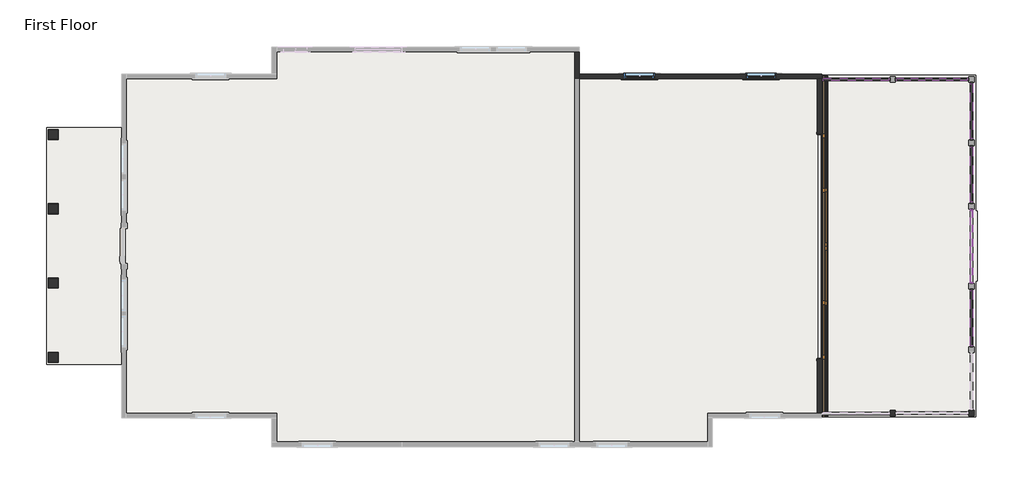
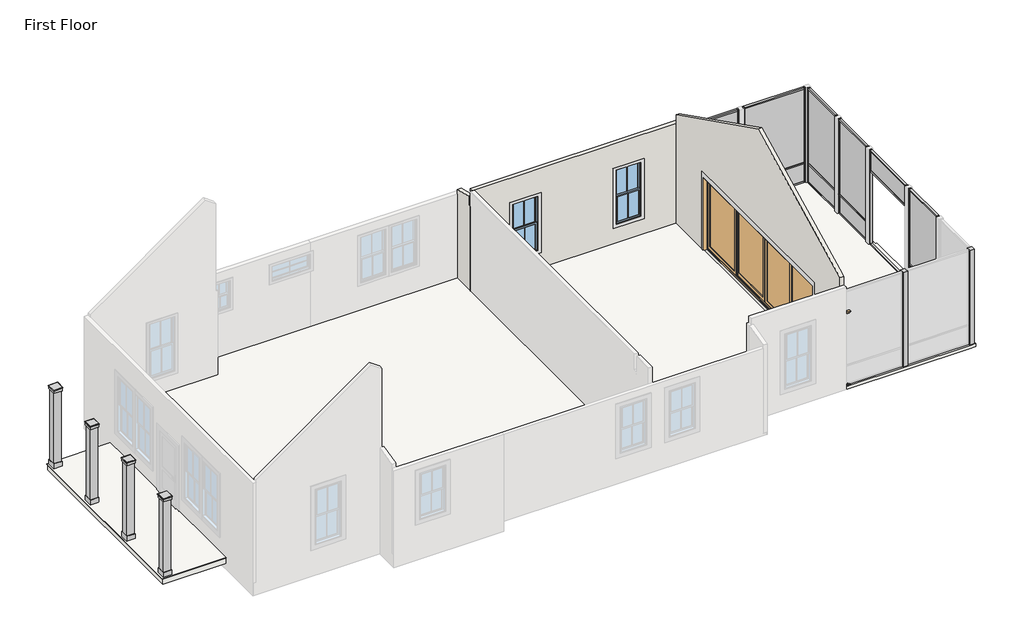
# One storey, part 2 of 3: 42 members, 11 plates, 6 columns, 4 slabs, 3 walls, 2 windows, 1 door.
"""IFC4 building model written with IfcOpenShell, lengths in millimetres."""

from ifc_helpers import new_model, si_unit, frame, origin, origin_with_axes, place, context, project, spatial, polyline, outline, extrude, faceted_brep, transform, mapped, element, save
from components import dimension_lumber_column_bh_6x6_5fb5b677, door_5080_ef8a3742, rectangular_mullion_screen_frame_f38c08a8, rectangular_mullion_screen_frame_8d831df1, rectangular_mullion_screen_frame_511fec39, rectangular_mullion_screen_frame_2d25939d, rectangular_mullion_screen_frame_3ff9ef47, rectangular_mullion_screen_frame_f5a31ed0, rectangular_mullion_screen_frame_30235923, rectangular_mullion_screen_frame_f99cffb0, rectangular_mullion_screen_frame_c8940eb0, rectangular_mullion_screen_frame_2fc61970, rectangular_mullion_screen_frame_7cee8ea0, rectangular_mullion_screen_frame_e9f309df, system_panel_screen_f85f2af3, system_panel_screen_9b5d54dd, system_panel_screen_150f36fd, system_panel_screen_4a7d9bef, system_panel_screen_32642744, system_panel_screen_d6b4d12b, system_panel_screen_7c602fd6, window_single_hung_2860_a2395dbf

model = new_model("IFC4")

# Units and contexts
model_context = context("Model", 3, world=origin())
ifc_project = project(units=[si_unit("LENGTHUNIT", "METRE", prefix="MILLI")], contexts=[model_context])

# Site, building, storey
site = spatial("IfcSite", under=ifc_project)
building = spatial("IfcBuilding", under=site)
storey = spatial("IfcBuildingStorey", under=building, Name="First Floor", Elevation=0.0)

# Columns
placement = place(None, origin())
element("IfcColumn", 1, ObjectType="Arch Column BHD : 9x9", at=placement, inside=storey, context=model_context, shape_type="SolidModel", body=[
    faceted_brep([(3220.6170833, 13802.8063284, 2590.8), (3220.6170833, 13536.1063284, 2590.8), (3487.3170833, 13536.1063284, 2590.8), (3487.3170833, 13802.8063284, 2590.8), (3220.6170833, 13802.8063284, 2482.85), (3487.3170833, 13802.8063284, 2482.85), (3487.3170833, 13536.1063284, 2482.85), (3220.6170833, 13536.1063284, 2482.85), (3239.6670833, 13783.7563284, 2482.85), (3239.6670833, 13555.1563284, 2482.85), (3468.2670833, 13555.1563284, 2482.85), (3468.2670833, 13783.7563284, 2482.85), (3239.6670833, 13783.7563284, 158.75), (3239.6670833, 13555.1563284, 158.75), (3468.2670833, 13555.1563284, 158.75), (3468.2670833, 13783.7563284, 158.75), (3220.6170833, 13802.8063284, 158.75), (3220.6170833, 13536.1063284, 158.75), (3487.3170833, 13536.1063284, 158.75), (3487.3170833, 13802.8063284, 158.75), (3220.6170833, 13802.8063284, 0.0), (3487.3170833, 13802.8063284, 0.0), (3487.3170833, 13536.1063284, 0.0), (3220.6170833, 13536.1063284, 0.0)], [[[0, 1, 2, 3]], [[4, 5, 6, 7], [8, 9, 10, 11]], [[1, 0, 4, 7]], [[2, 1, 7, 6]], [[3, 2, 6, 5]], [[0, 3, 5, 4]], [[8, 12, 13, 9]], [[9, 13, 14, 10]], [[10, 14, 15, 11]], [[12, 8, 11, 15]], [[16, 17, 18, 19], [13, 12, 15, 14]], [[20, 21, 22, 23]], [[17, 16, 20, 23]], [[18, 17, 23, 22]], [[19, 18, 22, 21]], [[16, 19, 21, 20]]]),
    extrude(outline(polyline([(3207.9170833, 13523.4063284), (3207.9170833, 13815.5063284), (3500.0170833, 13815.5063284), (3500.0170833, 13523.4063284), (3207.9170833, 13523.4063284)])), frame((0.0, 0.0, 2571.75), z_axis=(0.0, 0.0, 1.0), x_axis=(1.0, 0.0, 0.0)), (0.0, 0.0, 1.0), 19.05),
])
element("IfcColumn", 2, ObjectType="Arch Column BHD : 9x9", at=placement, inside=storey, context=model_context, shape_type="SolidModel", body=[
    faceted_brep([(3220.6170833, 11838.4041951, 2590.8), (3220.6170833, 11571.7041951, 2590.8), (3487.3170833, 11571.7041951, 2590.8), (3487.3170833, 11838.4041951, 2590.8), (3220.6170833, 11838.4041951, 2482.85), (3487.3170833, 11838.4041951, 2482.85), (3487.3170833, 11571.7041951, 2482.85), (3220.6170833, 11571.7041951, 2482.85), (3239.6670833, 11819.3541951, 2482.85), (3239.6670833, 11590.7541951, 2482.85), (3468.2670833, 11590.7541951, 2482.85), (3468.2670833, 11819.3541951, 2482.85), (3239.6670833, 11819.3541951, 158.75), (3239.6670833, 11590.7541951, 158.75), (3468.2670833, 11590.7541951, 158.75), (3468.2670833, 11819.3541951, 158.75), (3220.6170833, 11838.4041951, 158.75), (3220.6170833, 11571.7041951, 158.75), (3487.3170833, 11571.7041951, 158.75), (3487.3170833, 11838.4041951, 158.75), (3220.6170833, 11838.4041951, 0.0), (3487.3170833, 11838.4041951, 0.0), (3487.3170833, 11571.7041951, 0.0), (3220.6170833, 11571.7041951, 0.0)], [[[0, 1, 2, 3]], [[4, 5, 6, 7], [8, 9, 10, 11]], [[1, 0, 4, 7]], [[2, 1, 7, 6]], [[3, 2, 6, 5]], [[0, 3, 5, 4]], [[8, 12, 13, 9]], [[9, 13, 14, 10]], [[10, 14, 15, 11]], [[12, 8, 11, 15]], [[16, 17, 18, 19], [13, 12, 15, 14]], [[20, 21, 22, 23]], [[17, 16, 20, 23]], [[18, 17, 23, 22]], [[19, 18, 22, 21]], [[16, 19, 21, 20]]]),
    extrude(outline(polyline([(3207.9170833, 11559.0041951), (3207.9170833, 11851.1041951), (3500.0170833, 11851.1041951), (3500.0170833, 11559.0041951), (3207.9170833, 11559.0041951)])), frame((0.0, 0.0, 2571.75), z_axis=(0.0, 0.0, 1.0), x_axis=(1.0, 0.0, 0.0)), (0.0, 0.0, 1.0), 19.05),
])
element("IfcColumn", 3, ObjectType="Arch Column BHD : 9x9", at=placement, inside=storey, context=model_context, shape_type="SolidModel", body=[
    faceted_brep([(3220.6170833, 9874.0020617, 2590.8), (3220.6170833, 9607.3020617, 2590.8), (3487.3170833, 9607.3020617, 2590.8), (3487.3170833, 9874.0020617, 2590.8), (3220.6170833, 9874.0020617, 2482.85), (3487.3170833, 9874.0020617, 2482.85), (3487.3170833, 9607.3020617, 2482.85), (3220.6170833, 9607.3020617, 2482.85), (3239.6670833, 9854.9520617, 2482.85), (3239.6670833, 9626.3520617, 2482.85), (3468.2670833, 9626.3520617, 2482.85), (3468.2670833, 9854.9520617, 2482.85), (3239.6670833, 9854.9520617, 158.75), (3239.6670833, 9626.3520617, 158.75), (3468.2670833, 9626.3520617, 158.75), (3468.2670833, 9854.9520617, 158.75), (3220.6170833, 9874.0020617, 158.75), (3220.6170833, 9607.3020617, 158.75), (3487.3170833, 9607.3020617, 158.75), (3487.3170833, 9874.0020617, 158.75), (3220.6170833, 9874.0020617, 0.0), (3487.3170833, 9874.0020617, 0.0), (3487.3170833, 9607.3020617, 0.0), (3220.6170833, 9607.3020617, 0.0)], [[[0, 1, 2, 3]], [[4, 5, 6, 7], [8, 9, 10, 11]], [[1, 0, 4, 7]], [[2, 1, 7, 6]], [[3, 2, 6, 5]], [[0, 3, 5, 4]], [[8, 12, 13, 9]], [[9, 13, 14, 10]], [[10, 14, 15, 11]], [[12, 8, 11, 15]], [[16, 17, 18, 19], [13, 12, 15, 14]], [[20, 21, 22, 23]], [[17, 16, 20, 23]], [[18, 17, 23, 22]], [[19, 18, 22, 21]], [[16, 19, 21, 20]]]),
    extrude(outline(polyline([(3207.9170833, 9594.6020617), (3207.9170833, 9886.7020617), (3500.0170833, 9886.7020617), (3500.0170833, 9594.6020617), (3207.9170833, 9594.6020617)])), frame((0.0, 0.0, 2571.75), z_axis=(0.0, 0.0, 1.0), x_axis=(1.0, 0.0, 0.0)), (0.0, 0.0, 1.0), 19.05),
])
element("IfcColumn", 4, ObjectType="Arch Column BHD : 9x9", at=placement, inside=storey, context=model_context, shape_type="SolidModel", body=[
    faceted_brep([(3220.6170833, 7909.5999284, 2590.8), (3220.6170833, 7642.8999284, 2590.8), (3487.3170833, 7642.8999284, 2590.8), (3487.3170833, 7909.5999284, 2590.8), (3220.6170833, 7909.5999284, 2482.85), (3487.3170833, 7909.5999284, 2482.85), (3487.3170833, 7642.8999284, 2482.85), (3220.6170833, 7642.8999284, 2482.85), (3239.6670833, 7890.5499284, 2482.85), (3239.6670833, 7661.9499284, 2482.85), (3468.2670833, 7661.9499284, 2482.85), (3468.2670833, 7890.5499284, 2482.85), (3239.6670833, 7890.5499284, 158.75), (3239.6670833, 7661.9499284, 158.75), (3468.2670833, 7661.9499284, 158.75), (3468.2670833, 7890.5499284, 158.75), (3220.6170833, 7909.5999284, 158.75), (3220.6170833, 7642.8999284, 158.75), (3487.3170833, 7642.8999284, 158.75), (3487.3170833, 7909.5999284, 158.75), (3220.6170833, 7909.5999284, 0.0), (3487.3170833, 7909.5999284, 0.0), (3487.3170833, 7642.8999284, 0.0), (3220.6170833, 7642.8999284, 0.0)], [[[0, 1, 2, 3]], [[4, 5, 6, 7], [8, 9, 10, 11]], [[1, 0, 4, 7]], [[2, 1, 7, 6]], [[3, 2, 6, 5]], [[0, 3, 5, 4]], [[8, 12, 13, 9]], [[9, 13, 14, 10]], [[10, 14, 15, 11]], [[12, 8, 11, 15]], [[16, 17, 18, 19], [13, 12, 15, 14]], [[20, 21, 22, 23]], [[17, 16, 20, 23]], [[18, 17, 23, 22]], [[19, 18, 22, 21]], [[16, 19, 21, 20]]]),
    extrude(outline(polyline([(3207.9170833, 7630.1999284), (3207.9170833, 7922.2999284), (3500.0170833, 7922.2999284), (3500.0170833, 7630.1999284), (3207.9170833, 7630.1999284)])), frame((0.0, 0.0, 2571.75), z_axis=(0.0, 0.0, 1.0), x_axis=(1.0, 0.0, 0.0)), (0.0, 0.0, 1.0), 19.05),
])
dimension_lumber_column_bh_6x6_shape = dimension_lumber_column_bh_6x6_5fb5b677(model_context)
element("IfcColumn", 5, ObjectType="Dimension Lumber-Column BH : 6x6", at=placement, inside=storey, context=model_context, shape_type="MappedRepresentation", body=[
    mapped(dimension_lumber_column_bh_6x6_shape, transform((27590.4311833, 6303.0499284, 0.0), x_axis=(1.0, 0.0, 0.0), y_axis=(0.0, 1.0, 0.0), z_axis=(0.0, 0.0, 1.0))),
])
element("IfcColumn", 6, ObjectType="Dimension Lumber-Column BH : 6x6", at=placement, inside=storey, context=model_context, shape_type="MappedRepresentation", body=[
    mapped(dimension_lumber_column_bh_6x6_shape, transform((25515.9623833, 6303.0499284, 0.0), x_axis=(1.0, 0.0, 0.0), y_axis=(0.0, 1.0, 0.0), z_axis=(0.0, 0.0, 1.0))),
])

# Door
door_5080_shape = door_5080_ef8a3742(model_context)
element("IfcDoor", 7, ObjectType="SGD 4 Panel 2 Track Opposing Exo : 5080", at=placement, inside=storey, context=model_context, shape_type="MappedRepresentation", body=[
    mapped(door_5080_shape, transform((23581.8920833, 10707.6893284, 0.0), x_axis=(0.0, -1.0, 0.0), y_axis=(1.0, 0.0, 0.0), z_axis=(0.0, 0.0, 1.0))),
])

# Members
rectangular_mullion_screen_frame_shape = rectangular_mullion_screen_frame_f38c08a8(model_context)
element("IfcMember", 8, ObjectType="Rectangular Mullion : Screen Frame", at=placement, inside=storey, context=model_context, shape_type="MappedRepresentation", body=[
    mapped(rectangular_mullion_screen_frame_shape, transform((25623.9123833, 15121.7140284, 3117.85), x_axis=(0.0, 0.0, 1.0), y_axis=(0.0, 1.0, 0.0), z_axis=(-1.0, 0.0, 0.0))),
])
element("IfcMember", 9, ObjectType="Rectangular Mullion : Screen Frame", at=placement, inside=storey, context=model_context, shape_type="MappedRepresentation", body=[
    mapped(rectangular_mullion_screen_frame_shape, transform((27482.4811833, 15121.7140284, 0.0), x_axis=(0.0, 0.0, -1.0), y_axis=(0.0, 1.0, 0.0), z_axis=(1.0, 0.0, 0.0))),
])
rectangular_mullion_screen_frame_2_shape = rectangular_mullion_screen_frame_8d831df1(model_context)
element("IfcMember", 10, ObjectType="Rectangular Mullion : Screen Frame", at=placement, inside=storey, context=model_context, shape_type="MappedRepresentation", body=[
    mapped(rectangular_mullion_screen_frame_2_shape, transform((27590.4311833, 9547.8999284, 3117.85), x_axis=(0.0, 0.0, 1.0), y_axis=(1.0, 0.0, 0.0), z_axis=(0.0, 1.0, 0.0))),
])
element("IfcMember", 11, ObjectType="Rectangular Mullion : Screen Frame", at=placement, inside=storey, context=model_context, shape_type="MappedRepresentation", body=[
    mapped(rectangular_mullion_screen_frame_2_shape, transform((27590.4311833, 13337.3640284, 3117.85), x_axis=(0.0, 0.0, 1.0), y_axis=(1.0, 0.0, 0.0), z_axis=(0.0, 1.0, 0.0))),
])
element("IfcMember", 12, ObjectType="Rectangular Mullion : Screen Frame", at=placement, inside=storey, context=model_context, shape_type="MappedRepresentation", body=[
    mapped(rectangular_mullion_screen_frame_2_shape, transform((27590.4311833, 15013.7640284, 3117.85), x_axis=(0.0, 0.0, 1.0), y_axis=(1.0, 0.0, 0.0), z_axis=(0.0, 1.0, 0.0))),
])
element("IfcMember", 13, ObjectType="Rectangular Mullion : Screen Frame", at=placement, inside=storey, context=model_context, shape_type="MappedRepresentation", body=[
    mapped(rectangular_mullion_screen_frame_2_shape, transform((27590.4311833, 8087.3999284, 0.0), x_axis=(0.0, 0.0, -1.0), y_axis=(1.0, 0.0, 0.0), z_axis=(0.0, -1.0, 0.0))),
])
element("IfcMember", 14, ObjectType="Rectangular Mullion : Screen Frame", at=placement, inside=storey, context=model_context, shape_type="MappedRepresentation", body=[
    mapped(rectangular_mullion_screen_frame_2_shape, transform((27590.4311833, 11876.8640284, 0.0), x_axis=(0.0, 0.0, -1.0), y_axis=(1.0, 0.0, 0.0), z_axis=(0.0, -1.0, 0.0))),
])
element("IfcMember", 15, ObjectType="Rectangular Mullion : Screen Frame", at=placement, inside=storey, context=model_context, shape_type="MappedRepresentation", body=[
    mapped(rectangular_mullion_screen_frame_2_shape, transform((27590.4311833, 13553.2640284, 0.0), x_axis=(0.0, 0.0, -1.0), y_axis=(1.0, 0.0, 0.0), z_axis=(0.0, -1.0, 0.0))),
])
rectangular_mullion_screen_frame_3_shape = rectangular_mullion_screen_frame_511fec39(model_context)
element("IfcMember", 16, ObjectType="Rectangular Mullion : Screen Frame", at=placement, inside=storey, context=model_context, shape_type="MappedRepresentation", body=[
    mapped(rectangular_mullion_screen_frame_3_shape, transform((23680.3170833, 15121.7140284, 3117.85), x_axis=(0.0, 0.0, 1.0), y_axis=(0.0, 1.0, 0.0), z_axis=(-1.0, 0.0, 0.0))),
])
element("IfcMember", 17, ObjectType="Rectangular Mullion : Screen Frame", at=placement, inside=storey, context=model_context, shape_type="MappedRepresentation", body=[
    mapped(rectangular_mullion_screen_frame_3_shape, transform((25408.0123833, 15121.7140284, 0.0), x_axis=(0.0, 0.0, -1.0), y_axis=(0.0, 1.0, 0.0), z_axis=(1.0, 0.0, 0.0))),
])
rectangular_mullion_screen_frame_4_shape = rectangular_mullion_screen_frame_2d25939d(model_context)
element("IfcMember", 18, ObjectType="Rectangular Mullion : Screen Frame", at=placement, inside=storey, context=model_context, shape_type="MappedRepresentation", body=[
    mapped(rectangular_mullion_screen_frame_4_shape, transform((27590.4311833, 11660.9640284, 3117.85), x_axis=(0.0, 0.0, 1.0), y_axis=(1.0, 0.0, 0.0), z_axis=(0.0, 1.0, 0.0))),
])
element("IfcMember", 19, ObjectType="Rectangular Mullion : Screen Frame", at=placement, inside=storey, context=model_context, shape_type="MappedRepresentation", body=[
    mapped(rectangular_mullion_screen_frame_4_shape, transform((27590.4311833, 9764.1597617, 0.0), x_axis=(0.0, 0.0, -1.0), y_axis=(1.0, 0.0, 0.0), z_axis=(0.0, -1.0, 0.0))),
])
rectangular_mullion_screen_frame_5_shape = rectangular_mullion_screen_frame_3ff9ef47(model_context)
element("IfcMember", 20, ObjectType="Rectangular Mullion : Screen Frame", at=placement, inside=storey, context=model_context, shape_type="MappedRepresentation", body=[
    mapped(rectangular_mullion_screen_frame_5_shape, transform((27590.4311833, 11660.9640284, 2434.7932), x_axis=(0.0, 0.0, 1.0), y_axis=(1.0, 0.0, 0.0), z_axis=(0.0, 1.0, 0.0))),
])
rectangular_mullion_screen_frame_6_shape = rectangular_mullion_screen_frame_f5a31ed0(model_context)
element("IfcMember", 21, ObjectType="Rectangular Mullion : Screen Frame", at=placement, inside=storey, context=model_context, shape_type="MappedRepresentation", body=[
    mapped(rectangular_mullion_screen_frame_6_shape, transform((27590.4311833, 11699.0640284, 0.0), x_axis=(0.0, 1.0, 0.0), y_axis=(1.0, 0.0, 0.0), z_axis=(0.0, 0.0, -1.0))),
])
rectangular_mullion_screen_frame_7_shape = rectangular_mullion_screen_frame_30235923(model_context)
element("IfcMember", 22, ObjectType="Rectangular Mullion : Screen Frame", at=placement, inside=storey, context=model_context, shape_type="MappedRepresentation", body=[
    mapped(rectangular_mullion_screen_frame_7_shape, transform((27590.4311833, 9726.0597617, 3117.85), x_axis=(0.0, -1.0, 0.0), y_axis=(1.0, 0.0, 0.0), z_axis=(0.0, 0.0, 1.0))),
])
element("IfcMember", 23, ObjectType="Rectangular Mullion : Screen Frame", at=placement, inside=storey, context=model_context, shape_type="MappedRepresentation", body=[
    mapped(rectangular_mullion_screen_frame_7_shape, transform((27590.4311833, 11699.0640284, 2434.7932), x_axis=(0.0, 1.0, 0.0), y_axis=(1.0, 0.0, 0.0), z_axis=(0.0, 0.0, -1.0))),
])
element("IfcMember", 24, ObjectType="Rectangular Mullion : Screen Frame", at=placement, inside=storey, context=model_context, shape_type="MappedRepresentation", body=[
    mapped(rectangular_mullion_screen_frame_6_shape, transform((27590.4311833, 9726.0597617, 2434.7932), x_axis=(0.0, -1.0, 0.0), y_axis=(1.0, 0.0, 0.0), z_axis=(0.0, 0.0, 1.0))),
])
rectangular_mullion_screen_frame_8_shape = rectangular_mullion_screen_frame_f99cffb0(model_context)
element("IfcMember", 25, ObjectType="Rectangular Mullion : Screen Frame", at=placement, inside=storey, context=model_context, shape_type="MappedRepresentation", body=[
    mapped(rectangular_mullion_screen_frame_8_shape, transform((27590.4311833, 9547.8999284, 632.46), x_axis=(0.0, 0.0, 1.0), y_axis=(1.0, 0.0, 0.0), z_axis=(0.0, 1.0, 0.0))),
])
element("IfcMember", 26, ObjectType="Rectangular Mullion : Screen Frame", at=placement, inside=storey, context=model_context, shape_type="MappedRepresentation", body=[
    mapped(rectangular_mullion_screen_frame_8_shape, transform((27590.4311833, 13337.3640284, 632.46), x_axis=(0.0, 0.0, 1.0), y_axis=(1.0, 0.0, 0.0), z_axis=(0.0, 1.0, 0.0))),
])
element("IfcMember", 27, ObjectType="Rectangular Mullion : Screen Frame", at=placement, inside=storey, context=model_context, shape_type="MappedRepresentation", body=[
    mapped(rectangular_mullion_screen_frame_8_shape, transform((27590.4311833, 15013.7640284, 632.46), x_axis=(0.0, 0.0, 1.0), y_axis=(1.0, 0.0, 0.0), z_axis=(0.0, 1.0, 0.0))),
])
rectangular_mullion_screen_frame_9_shape = rectangular_mullion_screen_frame_c8940eb0(model_context)
element("IfcMember", 28, ObjectType="Rectangular Mullion : Screen Frame", at=placement, inside=storey, context=model_context, shape_type="MappedRepresentation", body=[
    mapped(rectangular_mullion_screen_frame_9_shape, transform((27590.4311833, 9585.9999284, 0.0), x_axis=(0.0, 1.0, 0.0), y_axis=(1.0, 0.0, 0.0), z_axis=(0.0, 0.0, -1.0))),
])
element("IfcMember", 29, ObjectType="Rectangular Mullion : Screen Frame", at=placement, inside=storey, context=model_context, shape_type="MappedRepresentation", body=[
    mapped(rectangular_mullion_screen_frame_9_shape, transform((27590.4311833, 13375.4640284, 0.0), x_axis=(0.0, 1.0, 0.0), y_axis=(1.0, 0.0, 0.0), z_axis=(0.0, 0.0, -1.0))),
])
element("IfcMember", 30, ObjectType="Rectangular Mullion : Screen Frame", at=placement, inside=storey, context=model_context, shape_type="MappedRepresentation", body=[
    mapped(rectangular_mullion_screen_frame_9_shape, transform((27590.4311833, 15051.8640284, 0.0), x_axis=(0.0, 1.0, 0.0), y_axis=(1.0, 0.0, 0.0), z_axis=(0.0, 0.0, -1.0))),
])
element("IfcMember", 31, ObjectType="Rectangular Mullion : Screen Frame", at=placement, inside=storey, context=model_context, shape_type="MappedRepresentation", body=[
    mapped(rectangular_mullion_screen_frame_9_shape, transform((25585.8123833, 15121.7140284, 0.0), x_axis=(-1.0, 0.0, 0.0), y_axis=(0.0, 1.0, 0.0), z_axis=(0.0, 0.0, -1.0))),
])
element("IfcMember", 32, ObjectType="Rectangular Mullion : Screen Frame", at=placement, inside=storey, context=model_context, shape_type="MappedRepresentation", body=[
    mapped(rectangular_mullion_screen_frame_9_shape, transform((23642.2170833, 15121.7140284, 0.0), x_axis=(-1.0, 0.0, 0.0), y_axis=(0.0, 1.0, 0.0), z_axis=(0.0, 0.0, -1.0))),
])
rectangular_mullion_screen_frame_10_shape = rectangular_mullion_screen_frame_2fc61970(model_context)
element("IfcMember", 33, ObjectType="Rectangular Mullion : Screen Frame", at=placement, inside=storey, context=model_context, shape_type="MappedRepresentation", body=[
    mapped(rectangular_mullion_screen_frame_10_shape, transform((27590.4311833, 8049.2999284, 3117.85), x_axis=(0.0, -1.0, 0.0), y_axis=(1.0, 0.0, 0.0), z_axis=(0.0, 0.0, 1.0))),
])
element("IfcMember", 34, ObjectType="Rectangular Mullion : Screen Frame", at=placement, inside=storey, context=model_context, shape_type="MappedRepresentation", body=[
    mapped(rectangular_mullion_screen_frame_10_shape, transform((27590.4311833, 11838.7640284, 3117.85), x_axis=(0.0, -1.0, 0.0), y_axis=(1.0, 0.0, 0.0), z_axis=(0.0, 0.0, 1.0))),
])
element("IfcMember", 35, ObjectType="Rectangular Mullion : Screen Frame", at=placement, inside=storey, context=model_context, shape_type="MappedRepresentation", body=[
    mapped(rectangular_mullion_screen_frame_10_shape, transform((27590.4311833, 13515.1640284, 3117.85), x_axis=(0.0, -1.0, 0.0), y_axis=(1.0, 0.0, 0.0), z_axis=(0.0, 0.0, 1.0))),
])
element("IfcMember", 36, ObjectType="Rectangular Mullion : Screen Frame", at=placement, inside=storey, context=model_context, shape_type="MappedRepresentation", body=[
    mapped(rectangular_mullion_screen_frame_10_shape, transform((27520.5811833, 15121.7140284, 3117.85), x_axis=(1.0, 0.0, 0.0), y_axis=(0.0, 1.0, 0.0), z_axis=(0.0, 0.0, 1.0))),
])
element("IfcMember", 37, ObjectType="Rectangular Mullion : Screen Frame", at=placement, inside=storey, context=model_context, shape_type="MappedRepresentation", body=[
    mapped(rectangular_mullion_screen_frame_10_shape, transform((25446.1123833, 15121.7140284, 3117.85), x_axis=(1.0, 0.0, 0.0), y_axis=(0.0, 1.0, 0.0), z_axis=(0.0, 0.0, 1.0))),
])
element("IfcMember", 38, ObjectType="Rectangular Mullion : Screen Frame", at=placement, inside=storey, context=model_context, shape_type="MappedRepresentation", body=[
    mapped(rectangular_mullion_screen_frame_10_shape, transform((27590.4311833, 9585.9999284, 632.46), x_axis=(0.0, 1.0, 0.0), y_axis=(1.0, 0.0, 0.0), z_axis=(0.0, 0.0, -1.0))),
])
element("IfcMember", 39, ObjectType="Rectangular Mullion : Screen Frame", at=placement, inside=storey, context=model_context, shape_type="MappedRepresentation", body=[
    mapped(rectangular_mullion_screen_frame_10_shape, transform((27590.4311833, 13375.4640284, 632.46), x_axis=(0.0, 1.0, 0.0), y_axis=(1.0, 0.0, 0.0), z_axis=(0.0, 0.0, -1.0))),
])
element("IfcMember", 40, ObjectType="Rectangular Mullion : Screen Frame", at=placement, inside=storey, context=model_context, shape_type="MappedRepresentation", body=[
    mapped(rectangular_mullion_screen_frame_10_shape, transform((27590.4311833, 15051.8640284, 632.46), x_axis=(0.0, 1.0, 0.0), y_axis=(1.0, 0.0, 0.0), z_axis=(0.0, 0.0, -1.0))),
])
element("IfcMember", 41, ObjectType="Rectangular Mullion : Screen Frame", at=placement, inside=storey, context=model_context, shape_type="MappedRepresentation", body=[
    mapped(rectangular_mullion_screen_frame_10_shape, transform((25585.8123833, 15121.7140284, 632.46), x_axis=(-1.0, 0.0, 0.0), y_axis=(0.0, 1.0, 0.0), z_axis=(0.0, 0.0, -1.0))),
])
element("IfcMember", 42, ObjectType="Rectangular Mullion : Screen Frame", at=placement, inside=storey, context=model_context, shape_type="MappedRepresentation", body=[
    mapped(rectangular_mullion_screen_frame_10_shape, transform((23642.2170833, 15121.7140284, 632.46), x_axis=(-1.0, 0.0, 0.0), y_axis=(0.0, 1.0, 0.0), z_axis=(0.0, 0.0, -1.0))),
])
element("IfcMember", 43, ObjectType="Rectangular Mullion : Screen Frame", at=placement, inside=storey, context=model_context, shape_type="MappedRepresentation", body=[
    mapped(rectangular_mullion_screen_frame_9_shape, transform((27590.4311833, 8049.2999284, 632.46), x_axis=(0.0, -1.0, 0.0), y_axis=(1.0, 0.0, 0.0), z_axis=(0.0, 0.0, 1.0))),
])
element("IfcMember", 44, ObjectType="Rectangular Mullion : Screen Frame", at=placement, inside=storey, context=model_context, shape_type="MappedRepresentation", body=[
    mapped(rectangular_mullion_screen_frame_9_shape, transform((27590.4311833, 11838.7640284, 632.46), x_axis=(0.0, -1.0, 0.0), y_axis=(1.0, 0.0, 0.0), z_axis=(0.0, 0.0, 1.0))),
])
element("IfcMember", 45, ObjectType="Rectangular Mullion : Screen Frame", at=placement, inside=storey, context=model_context, shape_type="MappedRepresentation", body=[
    mapped(rectangular_mullion_screen_frame_9_shape, transform((27590.4311833, 13515.1640284, 632.46), x_axis=(0.0, -1.0, 0.0), y_axis=(1.0, 0.0, 0.0), z_axis=(0.0, 0.0, 1.0))),
])
element("IfcMember", 46, ObjectType="Rectangular Mullion : Screen Frame", at=placement, inside=storey, context=model_context, shape_type="MappedRepresentation", body=[
    mapped(rectangular_mullion_screen_frame_9_shape, transform((27520.5811833, 15121.7140284, 632.46), x_axis=(1.0, 0.0, 0.0), y_axis=(0.0, 1.0, 0.0), z_axis=(0.0, 0.0, 1.0))),
])
element("IfcMember", 47, ObjectType="Rectangular Mullion : Screen Frame", at=placement, inside=storey, context=model_context, shape_type="MappedRepresentation", body=[
    mapped(rectangular_mullion_screen_frame_9_shape, transform((25446.1123833, 15121.7140284, 632.46), x_axis=(1.0, 0.0, 0.0), y_axis=(0.0, 1.0, 0.0), z_axis=(0.0, 0.0, 1.0))),
])
rectangular_mullion_screen_frame_11_shape = rectangular_mullion_screen_frame_7cee8ea0(model_context)
element("IfcMember", 48, ObjectType="Rectangular Mullion : Screen Frame", at=placement, inside=storey, context=model_context, shape_type="MappedRepresentation", body=[
    mapped(rectangular_mullion_screen_frame_11_shape, transform((25623.9123833, 15121.7140284, 632.46), x_axis=(0.0, 0.0, 1.0), y_axis=(0.0, 1.0, 0.0), z_axis=(-1.0, 0.0, 0.0))),
])
rectangular_mullion_screen_frame_12_shape = rectangular_mullion_screen_frame_e9f309df(model_context)
element("IfcMember", 49, ObjectType="Rectangular Mullion : Screen Frame", at=placement, inside=storey, context=model_context, shape_type="MappedRepresentation", body=[
    mapped(rectangular_mullion_screen_frame_12_shape, transform((23680.3170833, 15121.7140284, 632.46), x_axis=(0.0, 0.0, 1.0), y_axis=(0.0, 1.0, 0.0), z_axis=(-1.0, 0.0, 0.0))),
])

# Plates
system_panel_screen_shape = system_panel_screen_f85f2af3(model_context)
element("IfcPlate", 50, ObjectType="System Panel : Screen", at=placement, inside=storey, context=model_context, shape_type="MappedRepresentation", body=[
    mapped(system_panel_screen_shape, transform((27590.4311833, 10712.5618951, 2453.8432), x_axis=(0.0, 1.0, 0.0), y_axis=(-1.0, 0.0, 0.0), z_axis=(0.0, 0.0, 1.0))),
])
system_panel_screen_2_shape = system_panel_screen_9b5d54dd(model_context)
element("IfcPlate", 51, ObjectType="System Panel : Screen", at=placement, inside=storey, context=model_context, shape_type="MappedRepresentation", body=[
    mapped(system_panel_screen_2_shape, transform((27590.4311833, 8817.6499284, 38.1), x_axis=(0.0, 1.0, 0.0), y_axis=(-1.0, 0.0, 0.0), z_axis=(0.0, 0.0, 1.0))),
])
element("IfcPlate", 52, ObjectType="System Panel : Screen", at=placement, inside=storey, context=model_context, shape_type="MappedRepresentation", body=[
    mapped(system_panel_screen_2_shape, transform((27590.4311833, 12607.1140284, 38.1), x_axis=(0.0, 1.0, 0.0), y_axis=(-1.0, 0.0, 0.0), z_axis=(0.0, 0.0, 1.0))),
])
element("IfcPlate", 53, ObjectType="System Panel : Screen", at=placement, inside=storey, context=model_context, shape_type="MappedRepresentation", body=[
    mapped(system_panel_screen_2_shape, transform((27590.4311833, 14283.5140284, 38.1), x_axis=(0.0, 1.0, 0.0), y_axis=(-1.0, 0.0, 0.0), z_axis=(0.0, 0.0, 1.0))),
])
system_panel_screen_3_shape = system_panel_screen_150f36fd(model_context)
element("IfcPlate", 54, ObjectType="System Panel : Screen", at=placement, inside=storey, context=model_context, shape_type="MappedRepresentation", body=[
    mapped(system_panel_screen_3_shape, transform((27590.4311833, 8817.6499284, 651.51), x_axis=(0.0, 1.0, 0.0), y_axis=(-1.0, 0.0, 0.0), z_axis=(0.0, 0.0, 1.0))),
])
element("IfcPlate", 55, ObjectType="System Panel : Screen", at=placement, inside=storey, context=model_context, shape_type="MappedRepresentation", body=[
    mapped(system_panel_screen_3_shape, transform((27590.4311833, 12607.1140284, 651.51), x_axis=(0.0, 1.0, 0.0), y_axis=(-1.0, 0.0, 0.0), z_axis=(0.0, 0.0, 1.0))),
])
element("IfcPlate", 56, ObjectType="System Panel : Screen", at=placement, inside=storey, context=model_context, shape_type="MappedRepresentation", body=[
    mapped(system_panel_screen_3_shape, transform((27590.4311833, 14283.5140284, 651.51), x_axis=(0.0, 1.0, 0.0), y_axis=(-1.0, 0.0, 0.0), z_axis=(0.0, 0.0, 1.0))),
])
system_panel_screen_4_shape = system_panel_screen_4a7d9bef(model_context)
element("IfcPlate", 57, ObjectType="System Panel : Screen", at=placement, inside=storey, context=model_context, shape_type="MappedRepresentation", body=[
    mapped(system_panel_screen_4_shape, transform((24544.1647333, 15121.7140284, 38.1), x_axis=(-1.0, 0.0, 0.0), y_axis=(0.0, -1.0, 0.0), z_axis=(0.0, 0.0, 1.0))),
])
system_panel_screen_5_shape = system_panel_screen_32642744(model_context)
element("IfcPlate", 58, ObjectType="System Panel : Screen", at=placement, inside=storey, context=model_context, shape_type="MappedRepresentation", body=[
    mapped(system_panel_screen_5_shape, transform((24544.1647333, 15121.7140284, 651.51), x_axis=(-1.0, 0.0, 0.0), y_axis=(0.0, -1.0, 0.0), z_axis=(0.0, 0.0, 1.0))),
])
system_panel_screen_6_shape = system_panel_screen_d6b4d12b(model_context)
element("IfcPlate", 59, ObjectType="System Panel : Screen", at=placement, inside=storey, context=model_context, shape_type="MappedRepresentation", body=[
    mapped(system_panel_screen_6_shape, transform((26553.1967833, 15121.7140284, 38.1), x_axis=(-1.0, 0.0, 0.0), y_axis=(0.0, -1.0, 0.0), z_axis=(0.0, 0.0, 1.0))),
])
system_panel_screen_7_shape = system_panel_screen_7c602fd6(model_context)
element("IfcPlate", 60, ObjectType="System Panel : Screen", at=placement, inside=storey, context=model_context, shape_type="MappedRepresentation", body=[
    mapped(system_panel_screen_7_shape, transform((26553.1967833, 15121.7140284, 651.51), x_axis=(-1.0, 0.0, 0.0), y_axis=(0.0, -1.0, 0.0), z_axis=(0.0, 0.0, 1.0))),
])

# Slabs
element("IfcSlab", 61, ObjectType="Composite", at=placement, inside=storey, context=model_context, shape_type="SweptSolid", body=[
    extrude(outline(polyline([(5182.7670833, 13846.8499284), (5182.7670833, 7598.4499284), (3176.1670833, 7598.4499284), (3176.1670833, 13846.8499284), (5182.7670833, 13846.8499284)])), frame((0.0, 0.0, -19.05), z_axis=(0.0, 0.0, 1.0), x_axis=(1.0, 0.0, 0.0)), (0.0, 0.0, 1.0), 19.05),
])
element("IfcSlab", 62, ObjectType="Concrete 4\" Broom", at=placement, inside=storey, context=model_context, shape_type="Brep", body=[
    faceted_brep([(27699.8670833, 15231.1499284, -101.6), (27699.8670833, 15050.1749284, -101.6), (27699.8670833, 11649.7499284, -101.6), (27712.5670833, 11649.7499284, -101.6), (27750.6670833, 11649.7499284, -101.6), (27750.6670833, 9795.5499284, -101.6), (27712.5670833, 9795.5499284, -101.6), (27699.8670833, 9795.5499284, -101.6), (27699.8670833, 6214.1499284, -101.6), (27518.8920833, 6214.1499284, -101.6), (23623.1670833, 6214.1499284, -101.6), (23623.1670833, 6395.1249284, -101.6), (23623.1670833, 15050.1749284, -101.6), (23623.1670833, 15231.1499284, -101.6), (27699.8670833, 15231.1499284, 0.0), (23623.1670833, 15231.1499284, 0.0), (23623.1670833, 15050.1749284, 0.0), (23623.1670833, 6395.1249284, 0.0), (23623.1670833, 6214.1499284, 0.0), (27518.8920833, 6214.1499284, 0.0), (27699.8670833, 6214.1499284, 0.0), (27699.8670833, 9795.5499284, 0.0), (27712.5670833, 9795.5499284, 0.0), (27750.6670833, 9795.5499284, 0.0), (27750.6670833, 11649.7499284, 0.0), (27712.5670833, 11649.7499284, 0.0), (27699.8670833, 11649.7499284, 0.0), (27699.8670833, 15050.1749284, 0.0)], [[[0, 1, 2, 3, 4, 5, 6, 7, 8, 9, 10, 11, 12, 13]], [[14, 15, 16, 17, 18, 19, 20, 21, 22, 23, 24, 25, 26, 27]], [[2, 1, 0, 14, 27, 26]], [[10, 9, 8, 20, 19, 18]], [[13, 12, 11, 10, 18, 17, 16, 15]], [[0, 13, 15, 14]], [[4, 3, 2, 26, 25, 24]], [[5, 4, 24, 23]], [[7, 6, 5, 23, 22, 21]], [[8, 7, 21, 20]]]),
])
element("IfcSlab", 63, ObjectType="Trim", at=placement, inside=storey, context=model_context, shape_type="SweptSolid", body=[
    extrude(outline(polyline([(5182.7670833, 13821.4499284), (5182.7670833, 7623.8499284), (3201.5670833, 7623.8499284), (3201.5670833, 13821.4499284), (5182.7670833, 13821.4499284)])), frame((0.0, 0.0, -203.2), z_axis=(0.0, 0.0, 1.0), x_axis=(1.0, 0.0, 0.0)), (0.0, 0.0, 1.0), 184.15),
])
element("IfcSlab", 64, ObjectType="Wood Finish", at=placement, inside=storey, context=model_context, shape_type="SweptSolid", body=[
    extrude(outline(polyline([(5271.6670833, 15154.9499284), (9234.0670833, 15154.9499284), (9234.0670833, 15866.1499284), (12548.7670833, 15866.1499284), (17133.4670833, 15866.1499284), (17133.4670833, 15154.9499284), (23534.2670833, 15154.9499284), (23534.2670833, 6290.3499284), (20638.6670833, 6290.3499284), (20638.6670833, 5528.3499284), (12548.7670833, 5528.3499284), (9234.0670833, 5528.3499284), (9234.0670833, 6290.3499284), (5271.6670833, 6290.3499284), (5271.6670833, 15154.9499284)])), origin_with_axes(), (0.0, 0.0, 1.0), 19.05),
])

# Walls
element("IfcWall", 65, ObjectType="Exterior 4” Hardie", at=placement, inside=storey, context=model_context, shape_type="Brep", body=[
    faceted_brep([(17120.7670833, 15853.4499284, 0.0), (17120.7670833, 15142.2499284, 0.0), (17120.7670833, 15142.2499284, 2794.0), (17120.7670833, 15243.8499284, 2794.0), (17120.7670833, 15243.8499284, 3086.1), (17120.7670833, 15853.4499284, 2933.7), (17241.4170833, 15142.2499284, 2794.0), (17241.4170833, 15142.2499284, 0.0), (17241.4170833, 15142.2499284, -76.2), (17241.4170833, 15243.8499284, -76.2), (17241.4170833, 15262.8999284, -76.2), (17241.4170833, 15955.0499284, -76.2), (17241.4170833, 15955.0499284, 0.0), (17241.4170833, 15853.4499284, 0.0), (17241.4170833, 15853.4499284, 2794.0), (17241.4170833, 15853.4499284, 2933.7), (17241.4170833, 15243.8499284, 3086.1), (17241.4170833, 15243.8499284, 2794.0), (17222.3670833, 15853.4499284, 0.0), (17222.3670833, 15142.2499284, 0.0), (17222.3670833, 15955.0499284, 0.0), (17222.3670833, 15955.0499284, -76.2), (17222.3670833, 15142.2499284, -76.2)], [[[0, 1, 2, 3, 4, 5]], [[6, 7, 8, 9, 10, 11, 12, 13, 14, 15, 16, 17]], [[1, 0, 18, 19]], [[19, 18, 20, 21, 22]], [[0, 5, 15, 14, 13, 18]], [[11, 10, 9, 8, 22, 21]], [[2, 1, 19, 22, 8, 7, 6]], [[20, 18, 13, 12]], [[11, 21, 20, 12]], [[2, 6, 17, 3]], [[3, 17, 16, 4]], [[5, 4, 16, 15]]]),
])
element("IfcWall", 66, ObjectType="Exterior 4” Hardie", at=placement, inside=storey, context=model_context, shape_type="Brep", body=[
    faceted_brep([(17241.4170833, 15142.2499284, 3086.1), (17241.4170833, 15142.2499284, 2794.0), (17241.4170833, 15142.2499284, 0.0), (23521.5670833, 15142.2499284, 0.0), (23642.2170833, 15142.2499284, 0.0), (23642.2170833, 15142.2499284, 3302.0), (17235.0670833, 15142.2499284, 3302.0), (17177.9170833, 15142.2499284, 3302.0), (17177.9170833, 15142.2499284, 3086.1), (18419.0880833, 15142.2499284, 2438.4), (19231.8880833, 15142.2499284, 2438.4), (19231.8880833, 15142.2499284, 609.6), (18419.0880833, 15142.2499284, 609.6), (21632.2896833, 15142.2499284, 2438.4), (22445.0896833, 15142.2499284, 2438.4), (22445.0896833, 15142.2499284, 609.6), (21632.2896833, 15142.2499284, 609.6), (17241.4170833, 15262.8999284, -76.2), (17241.4170833, 15262.8999284, 3086.1), (17177.9170833, 15262.8999284, 3086.1), (17177.9170833, 15262.8999284, 3302.0), (23642.2170833, 15262.8999284, 3302.0), (23642.2170833, 15262.8999284, -76.2), (18419.0880833, 15262.8999284, 2438.4), (18419.0880833, 15262.8999284, 609.6), (19231.8880833, 15262.8999284, 609.6), (19231.8880833, 15262.8999284, 2438.4), (21632.2896833, 15262.8999284, 2438.4), (21632.2896833, 15262.8999284, 609.6), (22445.0896833, 15262.8999284, 609.6), (22445.0896833, 15262.8999284, 2438.4), (17241.4170833, 15243.8499284, 0.0), (23642.2170833, 15243.8499284, 0.0), (17241.4170833, 15243.8499284, -76.2), (23642.2170833, 15243.8499284, -76.2)], [[[0, 1, 2, 3, 4, 5, 6, 7, 8], [9, 10, 11, 12], [13, 14, 15, 16]], [[17, 18, 19, 20, 21, 22], [23, 24, 25, 26], [27, 28, 29, 30]], [[7, 6, 5, 21, 20]], [[4, 3, 2, 31, 32]], [[32, 31, 33, 34]], [[33, 17, 22, 34]], [[5, 4, 32, 34, 22, 21]], [[8, 7, 20, 19]], [[8, 19, 18, 0]], [[0, 18, 17, 33, 31, 2, 1]], [[24, 23, 9, 12]], [[25, 24, 12, 11]], [[26, 25, 11, 10]], [[23, 26, 10, 9]], [[28, 27, 13, 16]], [[29, 28, 16, 15]], [[30, 29, 15, 14]], [[27, 30, 14, 13]]]),
])
element("IfcWall", 67, ObjectType="Exterior 4” Hardie", at=placement, inside=storey, context=model_context, shape_type="Brep", body=[
    faceted_brep([(23521.5670833, 15142.2499284, 3581.4), (23521.5670833, 15142.2499284, 0.0), (23521.5670833, 13695.3643284, 0.0), (23521.5670833, 13695.3643284, 2438.4), (23521.5670833, 7720.0143284, 2438.4), (23521.5670833, 7720.0143284, 0.0), (23521.5670833, 6303.0499284, 0.0), (23521.5670833, 6303.0499284, 3581.4), (23521.5670833, 10722.6499284, 5791.2), (23642.2170833, 15142.2499284, 0.0), (23642.2170833, 15142.2499284, 3302.0), (23642.2170833, 15142.2499284, 3581.4), (23642.2170833, 15039.1640284, 3632.94295), (23642.2170833, 10722.6499284, 5791.2), (23642.2170833, 6385.5999284, 3622.675), (23642.2170833, 6303.0499284, 3581.4), (23642.2170833, 6303.0499284, 3302.0), (23642.2170833, 6303.0499284, 0.0), (23642.2170833, 7720.0143284, 0.0), (23642.2170833, 7720.0143284, 2438.4), (23642.2170833, 13695.3643284, 2438.4), (23642.2170833, 13695.3643284, 0.0), (23623.1670833, 15142.2499284, 0.0), (23623.1670833, 13695.3643284, 0.0), (23623.1670833, 6303.0499284, 0.0), (23623.1670833, 7720.0143284, 0.0)], [[[0, 1, 2, 3, 4, 5, 6, 7, 8]], [[9, 10, 11, 12, 13, 14, 15, 16, 17, 18, 19, 20, 21]], [[1, 22, 23, 2]], [[24, 6, 5, 25]], [[1, 0, 11, 10, 9, 22]], [[22, 9, 21, 23]], [[17, 24, 25, 18]], [[7, 6, 24, 17, 16, 15]], [[4, 19, 18, 25, 5]], [[19, 4, 3, 20]], [[20, 3, 2, 23, 21]], [[11, 0, 8, 13, 12]], [[7, 15, 14, 13, 8]]]),
])

# Windows
window_single_hung_2860_shape = window_single_hung_2860_a2395dbf(model_context)
element("IfcWindow", 68, ObjectType="Window-Single-Hung : 2860", at=placement, inside=storey, context=model_context, shape_type="MappedRepresentation", body=[
    mapped(window_single_hung_2860_shape, transform((18825.4880833, 15202.5749284, -304.8), x_axis=(1.0, 0.0, 0.0), y_axis=(0.0, 1.0, 0.0), z_axis=(0.0, 0.0, 1.0))),
])
element("IfcWindow", 69, ObjectType="Window-Single-Hung : 2860", at=placement, inside=storey, context=model_context, shape_type="MappedRepresentation", body=[
    mapped(window_single_hung_2860_shape, transform((22038.6896833, 15202.5749284, -304.8), x_axis=(1.0, 0.0, 0.0), y_axis=(0.0, 1.0, 0.0), z_axis=(0.0, 0.0, 1.0))),
])

save(model, "model.ifc")
